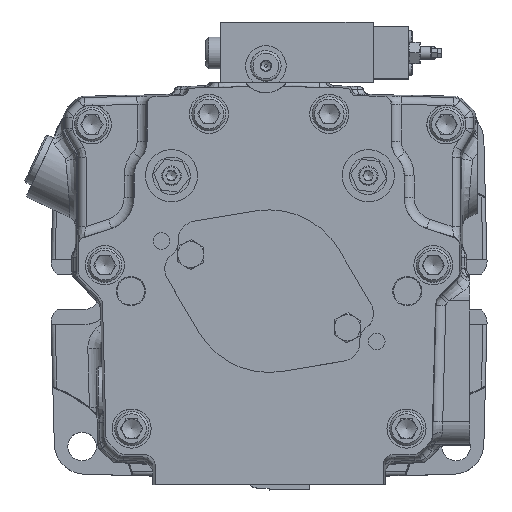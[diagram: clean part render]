
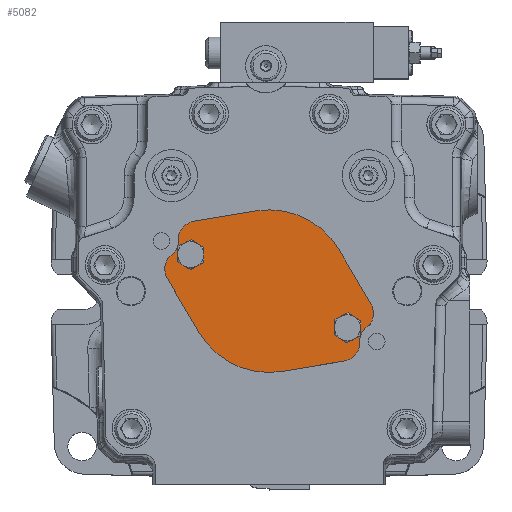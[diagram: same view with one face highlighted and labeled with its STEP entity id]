
A CAD part, top view. The second image highlights one B-rep face of the part: STEP entity #5082.
In plain terms, the highlighted planar face has unit normal (0, 0, 1).
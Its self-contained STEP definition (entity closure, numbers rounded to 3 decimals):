
#5082=ADVANCED_FACE('',(#11709,#11710,#11711),#7269,.T.);
#7269=PLANE('',#34287);
#8057=LINE('',#47311,#9810);
#8058=LINE('',#47315,#9811);
#8059=LINE('',#47319,#9812);
#8060=LINE('',#47323,#9813);
#8061=LINE('',#47331,#9814);
#8062=LINE('',#47335,#9815);
#8063=LINE('',#47339,#9816);
#8064=LINE('',#47343,#9817);
#9810=VECTOR('',#37983,1.);
#9811=VECTOR('',#37986,1.);
#9812=VECTOR('',#37989,1.);
#9813=VECTOR('',#37992,1.);
#9814=VECTOR('',#37999,1.);
#9815=VECTOR('',#38002,1.);
#9816=VECTOR('',#38005,1.);
#9817=VECTOR('',#38008,1.);
#11709=FACE_BOUND('',#12594,.T.);
#11710=FACE_BOUND('',#12595,.T.);
#11711=FACE_BOUND('',#12596,.T.);
#12594=EDGE_LOOP('',(#15244));
#12595=EDGE_LOOP('',(#15245,#15246,#15247,#15248,#15249,#15250,#15251,#15252,
#15253,#15254,#15255,#15256,#15257,#15258,#15259,#15260,#15261,#15262,#15263,
#15264));
#12596=EDGE_LOOP('',(#15265));
#15244=ORIENTED_EDGE('',*,*,#27978,.T.);
#15245=ORIENTED_EDGE('',*,*,#27979,.F.);
#15246=ORIENTED_EDGE('',*,*,#27980,.T.);
#15247=ORIENTED_EDGE('',*,*,#27981,.F.);
#15248=ORIENTED_EDGE('',*,*,#27982,.T.);
#15249=ORIENTED_EDGE('',*,*,#27983,.T.);
#15250=ORIENTED_EDGE('',*,*,#27984,.F.);
#15251=ORIENTED_EDGE('',*,*,#27985,.F.);
#15252=ORIENTED_EDGE('',*,*,#27986,.T.);
#15253=ORIENTED_EDGE('',*,*,#27987,.F.);
#15254=ORIENTED_EDGE('',*,*,#27988,.T.);
#15255=ORIENTED_EDGE('',*,*,#27989,.T.);
#15256=ORIENTED_EDGE('',*,*,#27990,.T.);
#15257=ORIENTED_EDGE('',*,*,#27991,.F.);
#15258=ORIENTED_EDGE('',*,*,#27992,.T.);
#15259=ORIENTED_EDGE('',*,*,#27993,.T.);
#15260=ORIENTED_EDGE('',*,*,#27994,.F.);
#15261=ORIENTED_EDGE('',*,*,#27995,.F.);
#15262=ORIENTED_EDGE('',*,*,#27996,.T.);
#15263=ORIENTED_EDGE('',*,*,#27997,.F.);
#15264=ORIENTED_EDGE('',*,*,#27998,.T.);
#15265=ORIENTED_EDGE('',*,*,#27999,.T.);
#24864=VERTEX_POINT('',#47305);
#24865=VERTEX_POINT('',#47307);
#24866=VERTEX_POINT('',#47308);
#24867=VERTEX_POINT('',#47310);
#24868=VERTEX_POINT('',#47312);
#24869=VERTEX_POINT('',#47314);
#24870=VERTEX_POINT('',#47316);
#24871=VERTEX_POINT('',#47318);
#24872=VERTEX_POINT('',#47320);
#24873=VERTEX_POINT('',#47322);
#24874=VERTEX_POINT('',#47324);
#24875=VERTEX_POINT('',#47326);
#24876=VERTEX_POINT('',#47328);
#24877=VERTEX_POINT('',#47330);
#24878=VERTEX_POINT('',#47332);
#24879=VERTEX_POINT('',#47334);
#24880=VERTEX_POINT('',#47336);
#24881=VERTEX_POINT('',#47338);
#24882=VERTEX_POINT('',#47340);
#24883=VERTEX_POINT('',#47342);
#24884=VERTEX_POINT('',#47344);
#24885=VERTEX_POINT('',#47347);
#27978=EDGE_CURVE('',#24864,#24864,#32788,.T.);
#27979=EDGE_CURVE('',#24865,#24866,#32789,.T.);
#27980=EDGE_CURVE('',#24865,#24867,#32790,.T.);
#27981=EDGE_CURVE('',#24868,#24867,#8057,.T.);
#27982=EDGE_CURVE('',#24868,#24869,#32791,.T.);
#27983=EDGE_CURVE('',#24869,#24870,#8058,.T.);
#27984=EDGE_CURVE('',#24871,#24870,#32792,.T.);
#27985=EDGE_CURVE('',#24872,#24871,#8059,.T.);
#27986=EDGE_CURVE('',#24872,#24873,#32793,.T.);
#27987=EDGE_CURVE('',#24874,#24873,#8060,.T.);
#27988=EDGE_CURVE('',#24874,#24875,#32794,.T.);
#27989=EDGE_CURVE('',#24875,#24876,#32795,.T.);
#27990=EDGE_CURVE('',#24876,#24877,#32796,.T.);
#27991=EDGE_CURVE('',#24878,#24877,#8061,.T.);
#27992=EDGE_CURVE('',#24878,#24879,#32797,.T.);
#27993=EDGE_CURVE('',#24879,#24880,#8062,.T.);
#27994=EDGE_CURVE('',#24881,#24880,#32798,.T.);
#27995=EDGE_CURVE('',#24882,#24881,#8063,.T.);
#27996=EDGE_CURVE('',#24882,#24883,#32799,.T.);
#27997=EDGE_CURVE('',#24884,#24883,#8064,.T.);
#27998=EDGE_CURVE('',#24884,#24866,#32800,.T.);
#27999=EDGE_CURVE('',#24885,#24885,#32801,.T.);
#32788=CIRCLE('',#34273,7.015);
#32789=CIRCLE('',#34274,12.);
#32790=CIRCLE('',#34275,4.);
#32791=CIRCLE('',#34276,12.);
#32792=CIRCLE('',#34277,50.);
#32793=CIRCLE('',#34278,12.);
#32794=CIRCLE('',#34279,4.);
#32795=CIRCLE('',#34280,12.);
#32796=CIRCLE('',#34281,4.);
#32797=CIRCLE('',#34282,12.);
#32798=CIRCLE('',#34283,50.);
#32799=CIRCLE('',#34284,12.);
#32800=CIRCLE('',#34285,4.);
#32801=CIRCLE('',#34286,7.015);
#34273=AXIS2_PLACEMENT_3D('',#47304,#37977,#37978);
#34274=AXIS2_PLACEMENT_3D('',#47306,#37979,#37980);
#34275=AXIS2_PLACEMENT_3D('',#47309,#37981,#37982);
#34276=AXIS2_PLACEMENT_3D('',#47313,#37984,#37985);
#34277=AXIS2_PLACEMENT_3D('',#47317,#37987,#37988);
#34278=AXIS2_PLACEMENT_3D('',#47321,#37990,#37991);
#34279=AXIS2_PLACEMENT_3D('',#47325,#37993,#37994);
#34280=AXIS2_PLACEMENT_3D('',#47327,#37995,#37996);
#34281=AXIS2_PLACEMENT_3D('',#47329,#37997,#37998);
#34282=AXIS2_PLACEMENT_3D('',#47333,#38000,#38001);
#34283=AXIS2_PLACEMENT_3D('',#47337,#38003,#38004);
#34284=AXIS2_PLACEMENT_3D('',#47341,#38006,#38007);
#34285=AXIS2_PLACEMENT_3D('',#47345,#38009,#38010);
#34286=AXIS2_PLACEMENT_3D('',#47346,#38011,#38012);
#34287=AXIS2_PLACEMENT_3D('',#47348,#38013,#38014);
#37977=DIRECTION('',(0.,0.,-1.));
#37978=DIRECTION('',(-0.467,0.884,0.));
#37979=DIRECTION('',(0.,0.,1.));
#37980=DIRECTION('',(0.906,-0.423,0.));
#37981=DIRECTION('',(0.,0.,1.));
#37982=DIRECTION('',(0.906,-0.423,0.));
#37983=DIRECTION('',(-0.423,-0.906,0.));
#37984=DIRECTION('',(0.,0.,1.));
#37985=DIRECTION('',(0.906,-0.423,0.));
#37986=DIRECTION('',(-0.507,0.862,0.));
#37987=DIRECTION('',(0.,0.,-1.));
#37988=DIRECTION('',(-0.906,0.423,0.));
#37989=DIRECTION('',(0.986,0.165,0.));
#37990=DIRECTION('',(0.,0.,1.));
#37991=DIRECTION('',(0.906,-0.423,0.));
#37992=DIRECTION('',(0.423,0.906,0.));
#37993=DIRECTION('',(0.,0.,1.));
#37994=DIRECTION('',(0.906,-0.423,0.));
#37995=DIRECTION('',(0.,0.,-1.));
#37996=DIRECTION('',(-0.906,0.423,0.));
#37997=DIRECTION('',(0.,0.,1.));
#37998=DIRECTION('',(0.906,-0.423,0.));
#37999=DIRECTION('',(0.423,0.906,0.));
#38000=DIRECTION('',(0.,0.,1.));
#38001=DIRECTION('',(0.906,-0.423,0.));
#38002=DIRECTION('',(0.507,-0.862,0.));
#38003=DIRECTION('',(0.,0.,-1.));
#38004=DIRECTION('',(0.906,-0.423,0.));
#38005=DIRECTION('',(-0.986,-0.165,0.));
#38006=DIRECTION('',(0.,0.,1.));
#38007=DIRECTION('',(0.906,-0.423,0.));
#38008=DIRECTION('',(-0.423,-0.906,0.));
#38009=DIRECTION('',(0.,0.,1.));
#38010=DIRECTION('',(0.906,-0.423,0.));
#38011=DIRECTION('',(0.,0.,-1.));
#38012=DIRECTION('',(-0.467,0.884,0.));
#38013=DIRECTION('',(0.,0.,1.));
#38014=DIRECTION('',(0.906,-0.423,0.));
#47304=CARTESIAN_POINT('',(-48.2,22.5,338.7));
#47305=CARTESIAN_POINT('',(-51.476,28.703,338.7));
#47306=CARTESIAN_POINT('',(67.513,-31.516,338.7));
#47307=CARTESIAN_POINT('',(61.063,-21.397,338.7));
#47308=CARTESIAN_POINT('',(55.614,-33.069,338.7));
#47309=CARTESIAN_POINT('',(58.913,-18.024,338.7));
#47310=CARTESIAN_POINT('',(62.538,-19.716,338.7));
#47311=CARTESIAN_POINT('',(58.905,-27.497,338.7));
#47312=CARTESIAN_POINT('',(63.002,-18.72,338.7));
#47313=CARTESIAN_POINT('',(52.129,-13.644,338.7));
#47314=CARTESIAN_POINT('',(62.47,-7.558,338.7));
#47315=CARTESIAN_POINT('',(65.673,-12.999,338.7));
#47316=CARTESIAN_POINT('',(43.097,25.359,338.7));
#47317=CARTESIAN_POINT('',(0.006,-0.003,338.7));
#47318=CARTESIAN_POINT('',(-8.223,49.315,338.7));
#47319=CARTESIAN_POINT('',(-52.125,41.989,338.7));
#47320=CARTESIAN_POINT('',(-45.897,43.029,338.7));
#47321=CARTESIAN_POINT('',(-43.922,31.192,338.7));
#47322=CARTESIAN_POINT('',(-54.795,36.268,338.7));
#47323=CARTESIAN_POINT('',(-58.892,27.491,338.7));
#47324=CARTESIAN_POINT('',(-55.26,35.273,338.7));
#47325=CARTESIAN_POINT('',(-51.635,33.581,338.7));
#47326=CARTESIAN_POINT('',(-55.602,33.063,338.7));
#47327=CARTESIAN_POINT('',(-67.501,31.51,338.7));
#47328=CARTESIAN_POINT('',(-61.05,21.391,338.7));
#47329=CARTESIAN_POINT('',(-58.9,18.018,338.7));
#47330=CARTESIAN_POINT('',(-62.525,19.71,338.7));
#47331=CARTESIAN_POINT('',(-58.892,27.491,338.7));
#47332=CARTESIAN_POINT('',(-62.989,18.714,338.7));
#47333=CARTESIAN_POINT('',(-52.116,13.639,338.7));
#47334=CARTESIAN_POINT('',(-62.458,7.552,338.7));
#47335=CARTESIAN_POINT('',(-65.66,12.993,338.7));
#47336=CARTESIAN_POINT('',(-43.084,-25.365,338.7));
#47337=CARTESIAN_POINT('',(0.006,-0.003,338.7));
#47338=CARTESIAN_POINT('',(8.236,-49.321,338.7));
#47339=CARTESIAN_POINT('',(52.137,-41.995,338.7));
#47340=CARTESIAN_POINT('',(45.91,-43.035,338.7));
#47341=CARTESIAN_POINT('',(43.934,-31.198,338.7));
#47342=CARTESIAN_POINT('',(54.808,-36.274,338.7));
#47343=CARTESIAN_POINT('',(58.905,-27.497,338.7));
#47344=CARTESIAN_POINT('',(55.273,-35.279,338.7));
#47345=CARTESIAN_POINT('',(51.648,-33.587,338.7));
#47346=CARTESIAN_POINT('',(48.2,-22.5,338.7));
#47347=CARTESIAN_POINT('',(44.924,-16.297,338.7));
#47348=CARTESIAN_POINT('',(0.006,-0.003,338.7));
